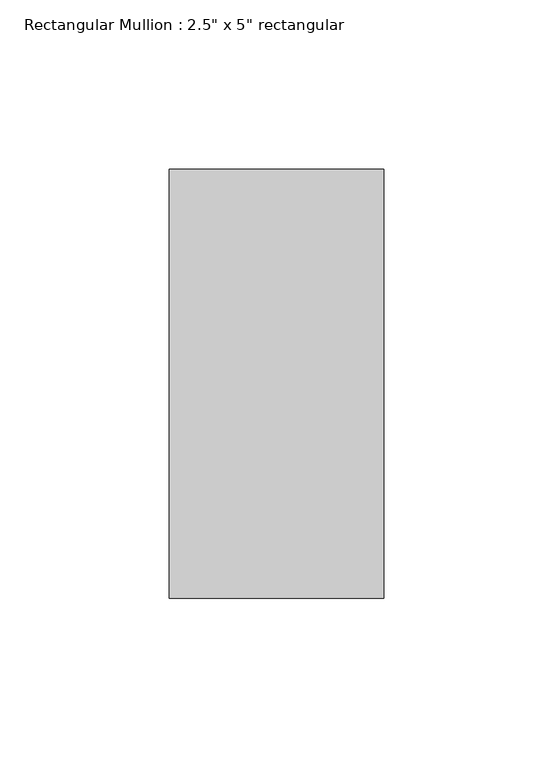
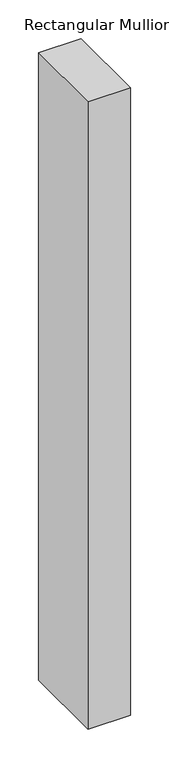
"""IFC4 building model written with IfcOpenShell, lengths in millimetres: member geometry."""

from ifc_helpers import new_model, si_unit, frame, origin, place, context, project, spatial, polyline, outline, extrude, source, transform, mapped, element, save


def member_822693cb(model_context):
    return source(origin(), model_context, "Body", "SweptSolid", [
        extrude(outline(polyline([(0.0, 63.5), (0.0, -63.5), (-63.5, -63.5), (-63.5, 63.5), (0.0, 63.5)])), frame((0.0, 0.0, -987.8013389), z_axis=(0.0, 0.0, 1.0), x_axis=(1.0, 0.0, 0.0)), (0.0, 0.0, 1.0), 987.8013389),
    ])


if __name__ == "__main__":
    model = new_model("IFC4")
    model_context = context("Model", 3, world=origin())
    ifc_project = project(units=[si_unit("LENGTHUNIT", "METRE", prefix="MILLI")], contexts=[model_context])
    site = spatial("IfcSite", under=ifc_project)
    building = spatial("IfcBuilding", under=site)
    placement = place(None, origin())
    member_shape = member_822693cb(model_context)
    element("IfcMember", 1, ObjectType="Rectangular Mullion : 2.5\" x 5\" rectangular", at=placement, inside=building, context=model_context, shape_type="MappedRepresentation", body=[
        mapped(member_shape, transform((0.0, 0.0, 0.0), x_axis=(1.0, 0.0, 0.0), y_axis=(0.0, 1.0, 0.0), z_axis=(0.0, 0.0, 1.0))),
    ])
    save(model, "model.ifc")
